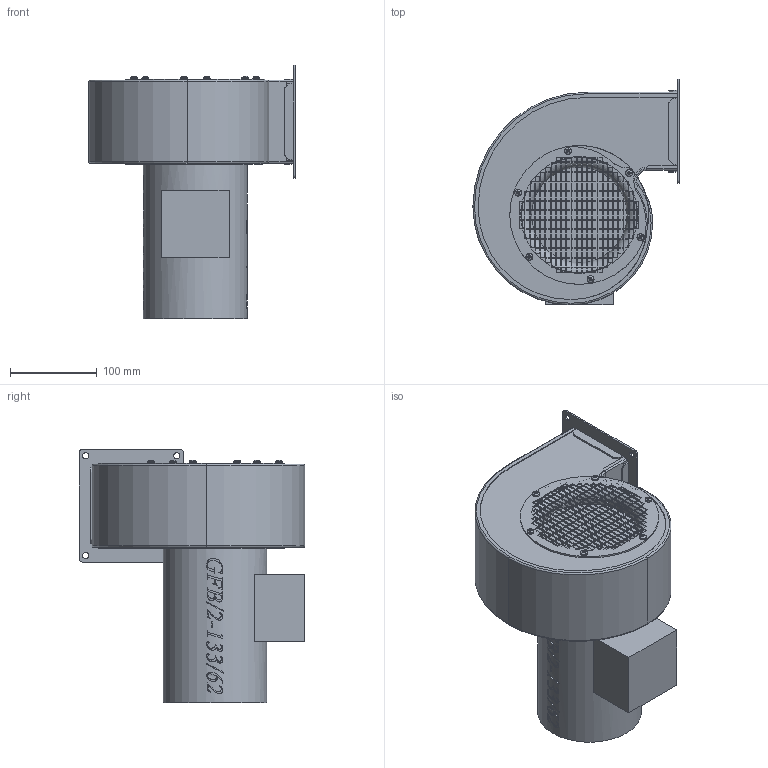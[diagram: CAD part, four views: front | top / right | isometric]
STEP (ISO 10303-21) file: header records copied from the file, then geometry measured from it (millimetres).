
FILE_DESCRIPTION(/* description */ (''),/* implementation_level */ '2;1');
FILE_NAME(/* name */ 'E:\Mariusz\Modele uproszczone\GFB\GFB_2_133_62 LG270 435030080\GFB_2_133_62 LG270 435030080\GFB_2_133_62 LG270 435030080.stp',/* time_stamp */ '2019-01-21T15:41:49+01:00',/* author */ ('M.Janczarek'),/* organization */ (''),/* preprocessor_version */ 'ST-DEVELOPER v16.13',/* originating_system */ 'Autodesk Inventor 2018',/* authorisation */ '');
FILE_SCHEMA (('AUTOMOTIVE_DESIGN { 1 0 10303 214 3 1 1 }'));
Length unit declared in the file: millimetre
Products named in the file (1): GFB_2_133_62 LG270 435030080
Bounding box: 237.5 x 260 x 292 mm (x, y, z)
Volume: 6294954.7 mm3; surface area: 295082.2 mm2
Topology: 1 solids, 1 shells, 2103 faces, 6134 edges, 4055 vertices
Faces by surface type: plane 1275, bspline 384, cylinder 317, cone 84, torus 37, sphere 6
Full cylindrical faces by diameter (mm): 7.1 x4, 110 x1, 119.6 x1, 160 x1
Entity records: 79895 total; most frequent: CARTESIAN_POINT 23747, ORIENTED_EDGE 12226, DIRECTION 9698, EDGE_CURVE 6113, LINE 4172, VECTOR 4172, VERTEX_POINT 4051, AXIS2_PLACEMENT_3D 2763
